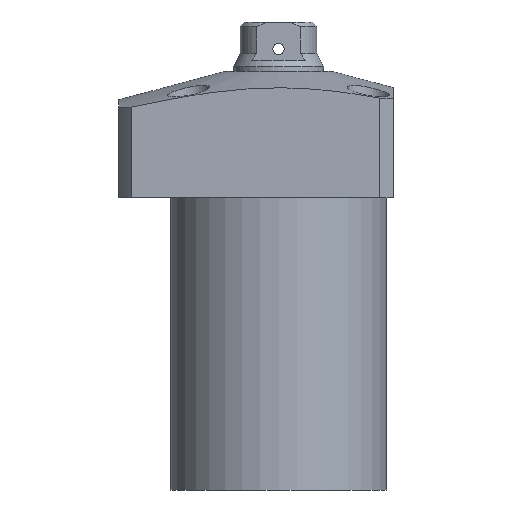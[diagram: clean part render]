
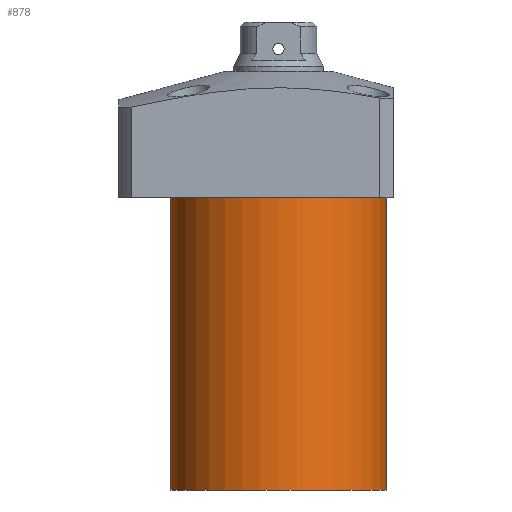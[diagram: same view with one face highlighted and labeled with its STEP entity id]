
A CAD part, front view. The second image highlights one B-rep face of the part: STEP entity #878.
In plain terms, the highlighted cylindrical face has radius 24 mm (diameter 48 mm), a partial arc.
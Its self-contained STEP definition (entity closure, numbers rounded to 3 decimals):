
#2 = ORIENTED_EDGE ( 'NONE', *, *, #997, .F. ) ;
#14 = AXIS2_PLACEMENT_3D ( 'NONE', #2126, #1084, #2304 ) ;
#65 = CARTESIAN_POINT ( 'NONE',  ( 24., 0., -79. ) ) ;
#84 = CARTESIAN_POINT ( 'NONE',  ( -24., 0., -79. ) ) ;
#183 = VERTEX_POINT ( 'NONE', #2418 ) ;
#372 = CARTESIAN_POINT ( 'NONE',  ( 24., 0., -79. ) ) ;
#417 = VERTEX_POINT ( 'NONE', #2139 ) ;
#453 = ORIENTED_EDGE ( 'NONE', *, *, #1653, .F. ) ;
#498 = DIRECTION ( 'NONE',  ( 0., 0., 1. ) ) ;
#516 = ORIENTED_EDGE ( 'NONE', *, *, #2604, .T. ) ;
#519 = VERTEX_POINT ( 'NONE', #65 ) ;
#604 = FACE_OUTER_BOUND ( 'NONE', #996, .T. ) ;
#675 = LINE ( 'NONE', #2364, #2442 ) ;
#878 = ADVANCED_FACE ( 'NONE', ( #604 ), #2520, .T. ) ;
#996 = EDGE_LOOP ( 'NONE', ( #453, #2, #516, #1788 ) ) ;
#997 = EDGE_CURVE ( 'NONE', #519, #1675, #1629, .T. ) ;
#1027 = AXIS2_PLACEMENT_3D ( 'NONE', #1855, #2262, #2463 ) ;
#1084 = DIRECTION ( 'NONE',  ( 0., 0., -1. ) ) ;
#1257 = VECTOR ( 'NONE', #1999, 1000. ) ;
#1321 = AXIS2_PLACEMENT_3D ( 'NONE', #2247, #2634, #1415 ) ;
#1415 = DIRECTION ( 'NONE',  ( 1., 0., 0. ) ) ;
#1629 = CIRCLE ( 'NONE', #14, 24. ) ;
#1653 = EDGE_CURVE ( 'NONE', #1675, #417, #675, .T. ) ;
#1675 = VERTEX_POINT ( 'NONE', #84 ) ;
#1733 = CIRCLE ( 'NONE', #1027, 24. ) ;
#1754 = LINE ( 'NONE', #372, #1257 ) ;
#1788 = ORIENTED_EDGE ( 'NONE', *, *, #2457, .T. ) ;
#1855 = CARTESIAN_POINT ( 'NONE',  ( 0., 0., -14. ) ) ;
#1999 = DIRECTION ( 'NONE',  ( 0., 0., 1. ) ) ;
#2126 = CARTESIAN_POINT ( 'NONE',  ( 0., 0., -79. ) ) ;
#2139 = CARTESIAN_POINT ( 'NONE',  ( -24., 0., -14. ) ) ;
#2247 = CARTESIAN_POINT ( 'NONE',  ( 0., 0., -79. ) ) ;
#2262 = DIRECTION ( 'NONE',  ( 0., 0., -1. ) ) ;
#2304 = DIRECTION ( 'NONE',  ( -1., 0., 0. ) ) ;
#2364 = CARTESIAN_POINT ( 'NONE',  ( -24., 0., -79. ) ) ;
#2418 = CARTESIAN_POINT ( 'NONE',  ( 24., 0., -14. ) ) ;
#2442 = VECTOR ( 'NONE', #498, 1000. ) ;
#2457 = EDGE_CURVE ( 'NONE', #183, #417, #1733, .T. ) ;
#2463 = DIRECTION ( 'NONE',  ( 1., 0., 0. ) ) ;
#2520 = CYLINDRICAL_SURFACE ( 'NONE', #1321, 24. ) ;
#2604 = EDGE_CURVE ( 'NONE', #519, #183, #1754, .T. ) ;
#2634 = DIRECTION ( 'NONE',  ( 0., 0., 1. ) ) ;
